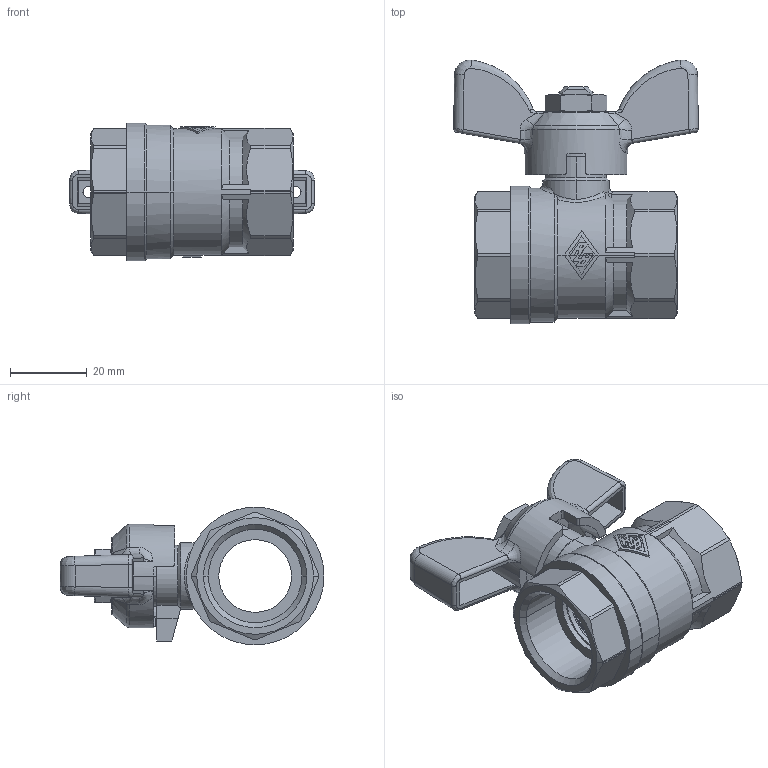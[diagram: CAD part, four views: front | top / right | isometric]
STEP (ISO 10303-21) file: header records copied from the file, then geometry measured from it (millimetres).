
FILE_DESCRIPTION(('OneSpaceDesigner STEP Export'),'2;1');
FILE_NAME('1520050000.stp','2009-04-22T17:14:17',(''),(''),'OneSpace Designer STEP processor for AP214 (Solid Model)','OneSpace Modeling 15.50C 25-Jan-2008 (C) CoCreate Software GmbH','');
FILE_SCHEMA(('AUTOMOTIVE_DESIGN { 1 0 10303 214 1 1 1 1 }'));
Length unit declared in the file: millimetre
Products named in the file (2): 1520050000
Assembly tree (1 placements, depth 2):
  1520050000
    1520050000
Bounding box: 64 x 69 x 36 mm (x, y, z)
Volume: 37327.3 mm3; surface area: 18843 mm2
Topology: 1 solids, 1 shells, 634 faces, 1740 edges, 1116 vertices
Faces by surface type: plane 300, cylinder 181, cone 84, bspline 49, torus 20
Entity records: 36419 total; most frequent: CARTESIAN_POINT 20215, ORIENTED_EDGE 3476, DIRECTION 2494, EDGE_CURVE 1738, VERTEX_POINT 1116, AXIS2_PLACEMENT_3D 944, EDGE_LOOP 658, FACE_OUTER_BOUND 634
